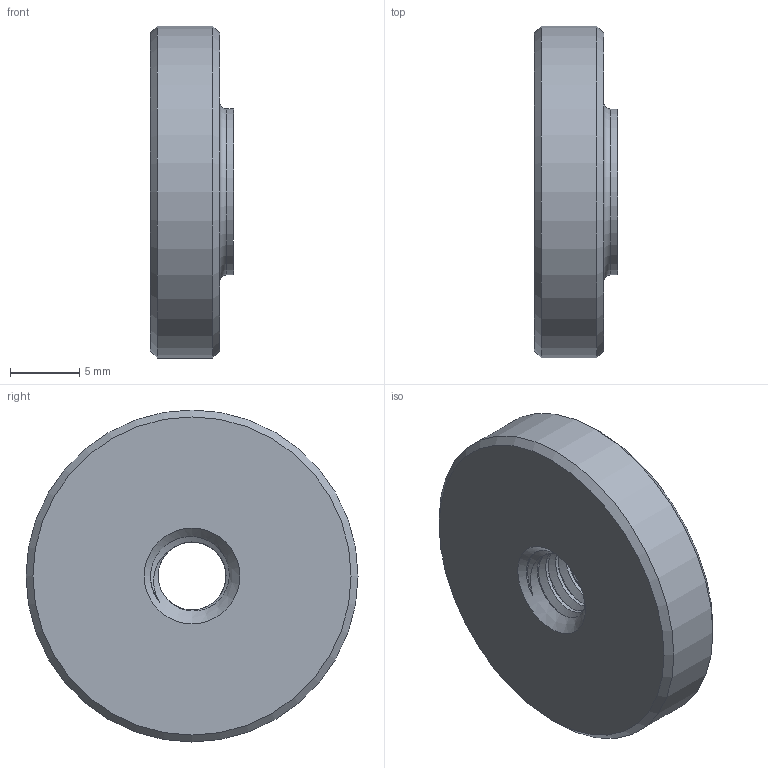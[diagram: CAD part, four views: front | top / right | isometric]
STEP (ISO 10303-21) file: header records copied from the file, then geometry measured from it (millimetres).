
FILE_DESCRIPTION(('STEP AP203'), '1');
FILE_NAME('À00083.106', '2025-03-17T10:18:30', ('1'), (''), 'C3D Converter', 'C3D Toolkit', '');
FILE_SCHEMA(('CONFIG_CONTROL_DESIGN'));
Length unit declared in the file: millimetre
Products named in the file (1): А00083.106
Bounding box: 6 x 24 x 24 mm (x, y, z)
Volume: 2209.2 mm3; surface area: 1360.7 mm2
Topology: 1 solids, 1 shells, 17 faces, 40 edges, 29 vertices
Faces by surface type: cylinder 6, cone 4, bspline 3, plane 3, torus 1
Full cylindrical faces by diameter (mm): 12 x1, 24 x1
Entity records: 4929 total; most frequent: CARTESIAN_POINT 4418, ORIENTED_EDGE 64, DIRECTION 55, EDGE_CURVE 32, EDGE_LOOP 27, AXIS2_PLACEMENT_3D 26, VERTEX_POINT 25, COLOUR_RGB 19
